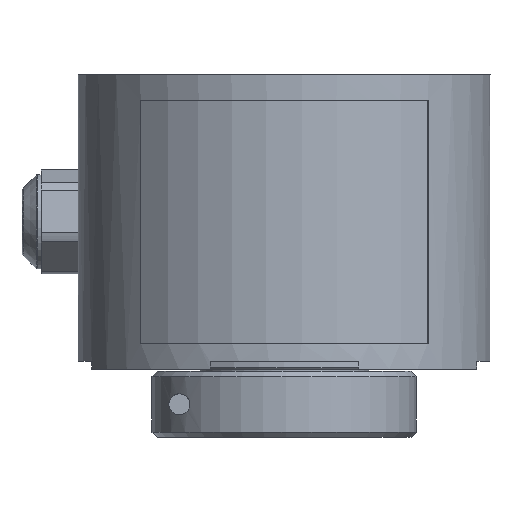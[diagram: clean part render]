
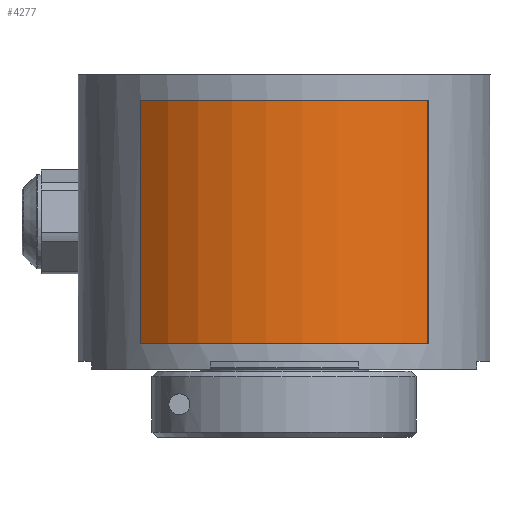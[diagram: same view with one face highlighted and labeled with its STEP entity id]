
A CAD part, front view. The second image highlights one B-rep face of the part: STEP entity #4277.
In plain terms, the highlighted cylindrical face has radius 39.2 mm (diameter 78.4 mm), a partial arc.
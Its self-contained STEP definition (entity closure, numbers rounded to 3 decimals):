
#81 = CYLINDRICAL_SURFACE ( 'NONE', #6251, 39.2 ) ;
#118 = DIRECTION ( 'NONE',  ( 0., 0., -1. ) ) ;
#422 = ORIENTED_EDGE ( 'NONE', *, *, #10085, .F. ) ;
#487 = CARTESIAN_POINT ( 'NONE',  ( -32.501, -42.963, 149.05 ) ) ;
#860 = CIRCLE ( 'NONE', #5766, 39.2 ) ;
#925 = ORIENTED_EDGE ( 'NONE', *, *, #3820, .F. ) ;
#1920 = VERTEX_POINT ( 'NONE', #2377 ) ;
#1921 = VECTOR ( 'NONE', #2098, 1000. ) ;
#2098 = DIRECTION ( 'NONE',  ( 0., 0., -1. ) ) ;
#2377 = CARTESIAN_POINT ( 'NONE',  ( -32.501, -42.963, 149.05 ) ) ;
#2796 = AXIS2_PLACEMENT_3D ( 'NONE', #4913, #118, #5719 ) ;
#2850 = VERTEX_POINT ( 'NONE', #8537 ) ;
#3322 = CARTESIAN_POINT ( 'NONE',  ( -5.271, -14.765, 103.05 ) ) ;
#3820 = EDGE_CURVE ( 'NONE', #7823, #8700, #860, .T. ) ;
#4041 = VECTOR ( 'NONE', #4521, 1000. ) ;
#4148 = DIRECTION ( 'NONE',  ( -1., 0., 0. ) ) ;
#4277 = ADVANCED_FACE ( 'NONE', ( #5112 ), #81, .T. ) ;
#4301 = LINE ( 'NONE', #487, #4041 ) ;
#4521 = DIRECTION ( 'NONE',  ( 0., 0., -1. ) ) ;
#4913 = CARTESIAN_POINT ( 'NONE',  ( -5.271, -14.765, 149.05 ) ) ;
#5112 = FACE_OUTER_BOUND ( 'NONE', #7088, .T. ) ;
#5719 = DIRECTION ( 'NONE',  ( -1., 0., 0. ) ) ;
#5766 = AXIS2_PLACEMENT_3D ( 'NONE', #3322, #8909, #4148 ) ;
#5837 = EDGE_CURVE ( 'NONE', #2850, #1920, #8915, .T. ) ;
#6249 = DIRECTION ( 'NONE',  ( -1., 0., 0. ) ) ;
#6251 = AXIS2_PLACEMENT_3D ( 'NONE', #7813, #7015, #6249 ) ;
#7015 = DIRECTION ( 'NONE',  ( 0., 0., -1. ) ) ;
#7088 = EDGE_LOOP ( 'NONE', ( #925, #422, #9566, #8583 ) ) ;
#7454 = EDGE_CURVE ( 'NONE', #1920, #8700, #4301, .T. ) ;
#7813 = CARTESIAN_POINT ( 'NONE',  ( -5.271, -14.765, 98.2 ) ) ;
#7823 = VERTEX_POINT ( 'NONE', #9803 ) ;
#8062 = LINE ( 'NONE', #8380, #1921 ) ;
#8380 = CARTESIAN_POINT ( 'NONE',  ( 21.96, -42.963, 149.05 ) ) ;
#8537 = CARTESIAN_POINT ( 'NONE',  ( 21.96, -42.963, 149.05 ) ) ;
#8583 = ORIENTED_EDGE ( 'NONE', *, *, #7454, .T. ) ;
#8680 = CARTESIAN_POINT ( 'NONE',  ( -32.501, -42.963, 103.05 ) ) ;
#8700 = VERTEX_POINT ( 'NONE', #8680 ) ;
#8909 = DIRECTION ( 'NONE',  ( 0., 0., -1. ) ) ;
#8915 = CIRCLE ( 'NONE', #2796, 39.2 ) ;
#9566 = ORIENTED_EDGE ( 'NONE', *, *, #5837, .T. ) ;
#9803 = CARTESIAN_POINT ( 'NONE',  ( 21.96, -42.963, 103.05 ) ) ;
#10085 = EDGE_CURVE ( 'NONE', #2850, #7823, #8062, .T. ) ;
